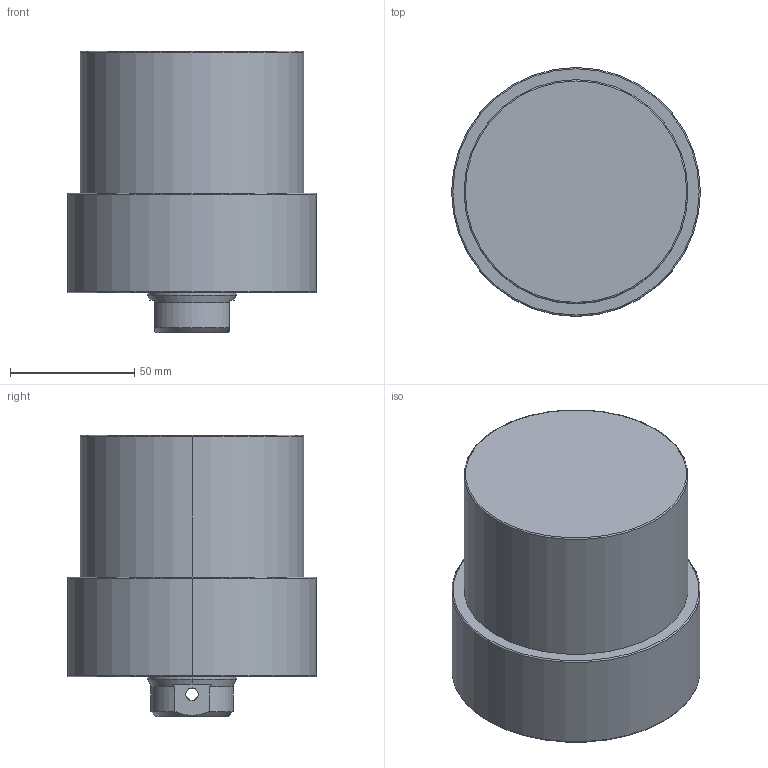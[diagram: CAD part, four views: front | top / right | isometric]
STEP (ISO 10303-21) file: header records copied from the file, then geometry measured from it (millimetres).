
FILE_DESCRIPTION (( 'STEP AP203' ), '1' );
FILE_NAME ('CLLU-090GB-035.STEP', '2020-01-11T00:55:11', ( '' ), ( '' ), 'SwSTEP 2.0', 'SolidWorks 2015', '' );
FILE_SCHEMA (( 'CONFIG_CONTROL_DESIGN' ));
Length unit declared in the file: millimetre
Products named in the file (1): CLLU-090GB-035
Bounding box: 100 x 100 x 113 mm (x, y, z)
Volume: 672078.1 mm3; surface area: 51088.9 mm2
Topology: 1 solids, 1 shells, 66 faces, 154 edges, 87 vertices
Faces by surface type: cylinder 26, cone 24, plane 10, torus 6
Entity records: 2029 total; most frequent: CARTESIAN_POINT 458, DIRECTION 342, ORIENTED_EDGE 288, EDGE_CURVE 144, AXIS2_PLACEMENT_3D 143, VERTEX_POINT 87, EDGE_LOOP 77, CIRCLE 76
